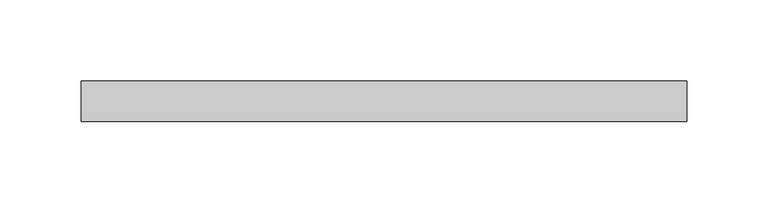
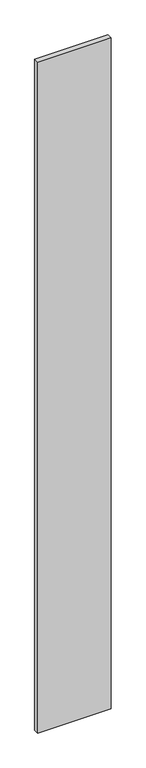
"""IFC4 building model written with IfcOpenShell, lengths in millimetres: plate geometry, 系统嵌板 : 玻璃."""

from ifc_helpers import new_model, si_unit, origin, origin_with_axes, place, context, project, spatial, polyline, outline, extrude, source, transform, mapped, element, save


def plate_90c15c1a(model_context):
    return source(origin(), model_context, "Body", "SweptSolid", [
        extrude(outline(polyline([(186.25, -12.5), (-186.25, -12.5), (-186.25, 12.5), (186.25, 12.5), (186.25, -12.5)])), origin_with_axes(), (0.0, 0.0, 1.0), 3600.0),
    ])


if __name__ == "__main__":
    model = new_model("IFC4")
    model_context = context("Model", 3, world=origin())
    ifc_project = project(units=[si_unit("LENGTHUNIT", "METRE", prefix="MILLI")], contexts=[model_context])
    site = spatial("IfcSite", under=ifc_project)
    building = spatial("IfcBuilding", under=site)
    placement = place(None, origin())
    plate_shape = plate_90c15c1a(model_context)
    element("IfcPlate", 1, ObjectType="系统嵌板 : 玻璃", at=placement, inside=building, context=model_context, shape_type="MappedRepresentation", body=[
        mapped(plate_shape, transform((0.0, 0.0, 0.0), x_axis=(1.0, 0.0, 0.0), y_axis=(0.0, 1.0, 0.0), z_axis=(0.0, 0.0, 1.0))),
    ])
    save(model, "model.ifc")
